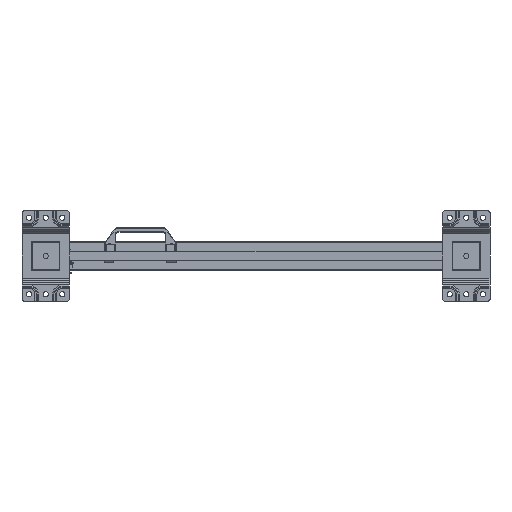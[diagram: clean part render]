
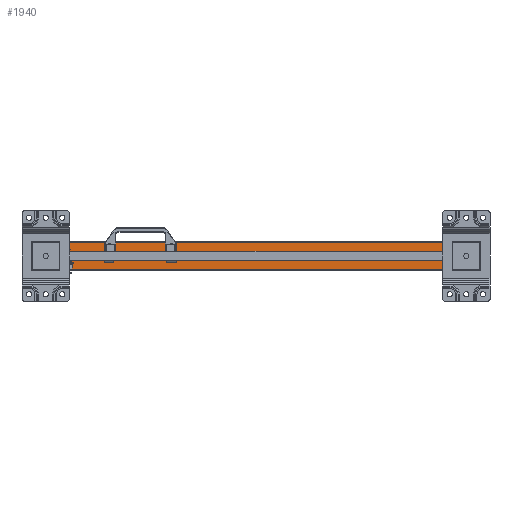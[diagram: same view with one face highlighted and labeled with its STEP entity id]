
A CAD part, front view. The second image highlights one B-rep face of the part: STEP entity #1940.
In plain terms, the highlighted planar face has unit normal (0, -1, 0).
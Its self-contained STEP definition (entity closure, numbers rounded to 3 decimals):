
#1940=ADVANCED_FACE('',(#5741),#5742,.T.);
#5741=FACE_OUTER_BOUND('',#11714,.T.);
#5742=PLANE('',#11715);
#11714=EDGE_LOOP('',(#19231,#19232,#19233,#19234));
#11715=AXIS2_PLACEMENT_3D('',#19235,#19236,#19237);
#19231=ORIENTED_EDGE('',*,*,#36022,.T.);
#19232=ORIENTED_EDGE('',*,*,#36023,.F.);
#19233=ORIENTED_EDGE('',*,*,#36024,.T.);
#19234=ORIENTED_EDGE('',*,*,#36012,.T.);
#19235=CARTESIAN_POINT('',(0.0,2539.0,30.));
#19236=DIRECTION('',(0.,-1.0,0.));
#19237=DIRECTION('',(-1.0,0.,0.0));
#36012=EDGE_CURVE('',#42922,#42920,#42923,.T.);
#36022=EDGE_CURVE('',#42920,#42935,#42936,.T.);
#36023=EDGE_CURVE('',#42937,#42935,#42938,.T.);
#36024=EDGE_CURVE('',#42937,#42922,#42939,.T.);
#42920=VERTEX_POINT('',#53050);
#42922=VERTEX_POINT('',#53053);
#42923=LINE('',#53054,#53055);
#42935=VERTEX_POINT('',#53073);
#42936=LINE('',#53074,#53075);
#42937=VERTEX_POINT('',#53076);
#42938=LINE('',#53077,#53078);
#42939=LINE('',#53079,#53080);
#53050=CARTESIAN_POINT('',(830.0,2539.0,-30.));
#53053=CARTESIAN_POINT('',(0.,2539.0,-30.));
#53054=CARTESIAN_POINT('',(0.,2539.0,-30.));
#53055=VECTOR('',#68364,10.0);
#53073=CARTESIAN_POINT('',(830.0,2539.0,30.));
#53074=CARTESIAN_POINT('',(830.0,2539.0,15.));
#53075=VECTOR('',#68371,1.0);
#53076=CARTESIAN_POINT('',(0.0,2539.0,30.));
#53077=CARTESIAN_POINT('',(0.0,2539.0,30.));
#53078=VECTOR('',#68372,10.0);
#53079=CARTESIAN_POINT('',(0.0,2539.0,30.));
#53080=VECTOR('',#68373,10.0);
#68364=DIRECTION('',(1.0,0.,0.));
#68371=DIRECTION('',(-0.0,0.,1.0));
#68372=DIRECTION('',(1.0,0.,0.));
#68373=DIRECTION('',(0.,0.,-1.0));
